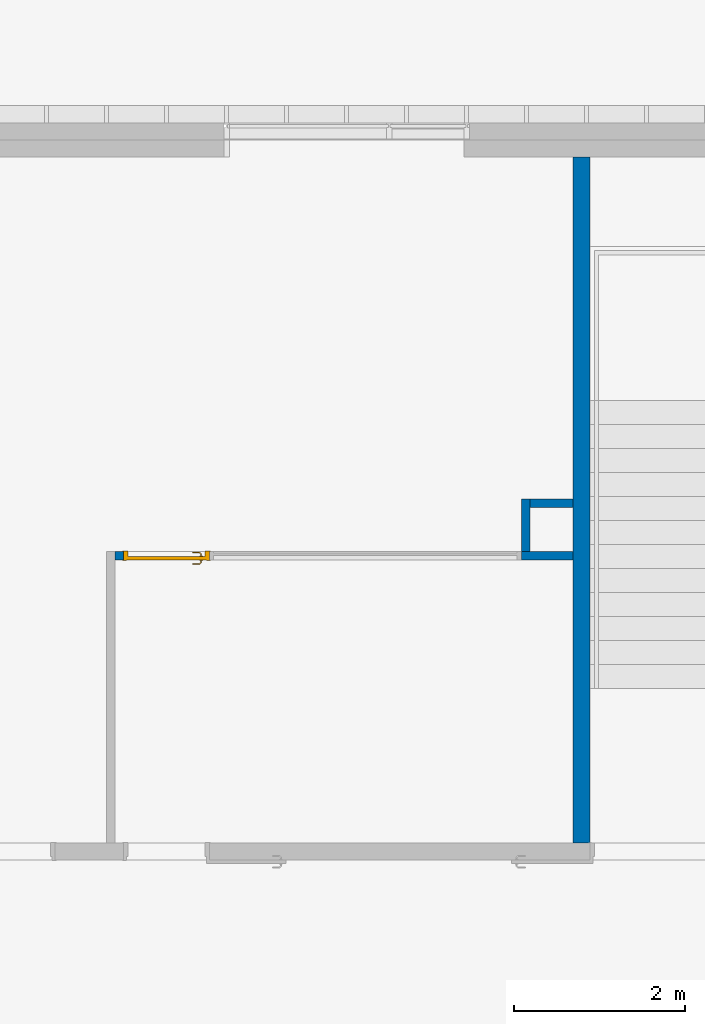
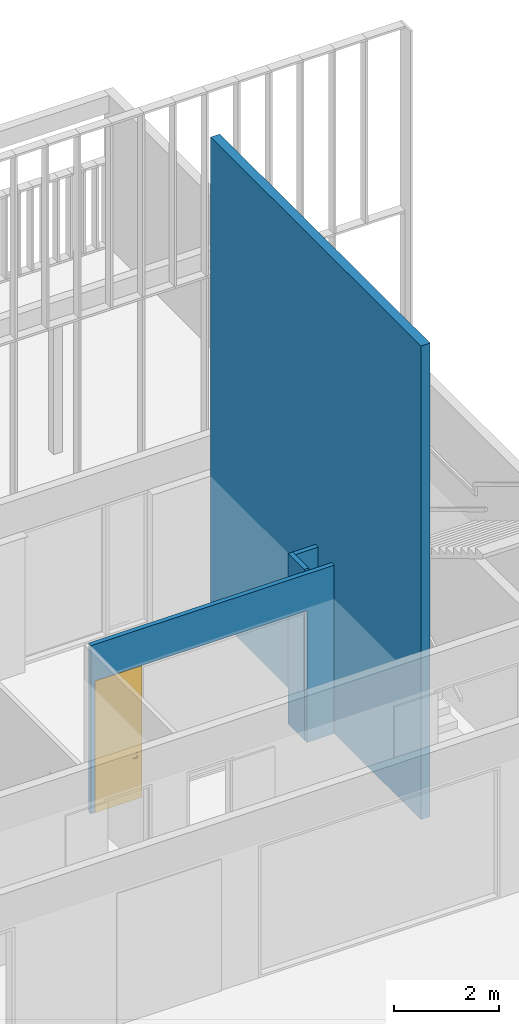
# One storey, part 172 of 240: 4 walls, 1 door, 2 openings.
"""IFC2X3 building model written with IfcOpenShell, lengths in centimetres."""

from ifc_helpers import new_model, entity, si_unit, converted_unit, derived_unit, direction, frame, frame_2d, origin, place, context, subcontext, project, spatial, rectangle, extrude, faceted_brep, source, transform, mapped, material, material_list, layer, layer_set, layer_usage, type_object, type_shapes, element, fill, save


model = new_model("IFC2X3")

# Units and contexts
model_context = context("Model", 3, precision=0.001, world=origin(), true_north=direction((6.12303176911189e-17, 1.0)))
body_context = subcontext(model_context, "Body", "Model", "MODEL_VIEW")
ifc_project = project(units=[si_unit("LENGTHUNIT", "METRE", prefix="CENTI"), si_unit("AREAUNIT", "SQUARE_METRE"), si_unit("VOLUMEUNIT", "CUBIC_METRE"), converted_unit("PLANEANGLEUNIT", "DEGREE", entity("IfcRatioMeasure", 0.0174532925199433), si_unit("PLANEANGLEUNIT", "RADIAN"), dimensions=[0, 0, 0, 0, 0, 0, 0]), si_unit("MASSUNIT", "GRAM", prefix="KILO"), derived_unit("MASSDENSITYUNIT", [(si_unit("MASSUNIT", "GRAM", prefix="KILO"), 1), (si_unit("LENGTHUNIT", "METRE"), -3)]), si_unit("TIMEUNIT", "SECOND"), si_unit("FREQUENCYUNIT", "HERTZ"), si_unit("THERMODYNAMICTEMPERATUREUNIT", "DEGREE_CELSIUS"), derived_unit("THERMALTRANSMITTANCEUNIT", [(si_unit("MASSUNIT", "GRAM", prefix="KILO"), 1), (si_unit("THERMODYNAMICTEMPERATUREUNIT", "KELVIN"), -1), (si_unit("TIMEUNIT", "SECOND"), -3)]), derived_unit("VOLUMETRICFLOWRATEUNIT", [(si_unit("LENGTHUNIT", "METRE"), 3), (si_unit("TIMEUNIT", "SECOND"), -1)]), si_unit("ELECTRICCURRENTUNIT", "AMPERE"), si_unit("ELECTRICVOLTAGEUNIT", "VOLT"), si_unit("POWERUNIT", "WATT"), si_unit("FORCEUNIT", "NEWTON", prefix="KILO"), si_unit("ILLUMINANCEUNIT", "LUX"), si_unit("LUMINOUSFLUXUNIT", "LUMEN"), si_unit("LUMINOUSINTENSITYUNIT", "CANDELA"), derived_unit("USERDEFINED", [(si_unit("MASSUNIT", "GRAM", prefix="KILO"), -1), (si_unit("LENGTHUNIT", "METRE"), -2), (si_unit("TIMEUNIT", "SECOND"), 3), (si_unit("LUMINOUSFLUXUNIT", "LUMEN"), 1)]), derived_unit("LINEARVELOCITYUNIT", [(si_unit("LENGTHUNIT", "METRE"), 1), (si_unit("TIMEUNIT", "SECOND"), -1)]), si_unit("PRESSUREUNIT", "PASCAL"), derived_unit("USERDEFINED", [(si_unit("LENGTHUNIT", "METRE"), -2), (si_unit("MASSUNIT", "GRAM", prefix="KILO"), 1), (si_unit("TIMEUNIT", "SECOND"), -2)])], contexts=[model_context])

# Site, building, storey
site_placement = place(None, frame((-2781.94577612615, 7442.24238424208, 0.0)))
site = spatial("IfcSite", under=ifc_project, at=site_placement, Name="Default", CompositionType="ELEMENT")
building_placement = place(site_placement, origin())
building = spatial("IfcBuilding", under=site, at=building_placement, CompositionType="ELEMENT")
storey_placement = place(building_placement, origin())
storey = spatial("IfcBuildingStorey", under=building, at=storey_placement, Name="N00 - COO", CompositionType="ELEMENT", Elevation=0.0)

# Wall
ifc_material_1 = material(Name="01 - Maçonnerie")
ifc_layer_1 = layer(ifc_material_1, 20.0)
ifc_layer_set_1 = layer_set([ifc_layer_1], Name="Mur de base:04 - Structure - béton - 20cm")
ifc_layer_usage_1 = layer_usage(ifc_layer_set_1, "AXIS2", "NEGATIVE", 10.0)
wall_type_1 = type_object("IfcWallType", Name="Mur de base:04 - Structure - béton - 20cm", PredefinedType="STANDARD", material=ifc_layer_set_1)
wall_1_placement = place(building_placement, frame((-835.299882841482, -1110.0, 0.0), z_axis=(0.0, 0.0, 1.0), x_axis=(0.0, -1.0, 0.0)))
element("IfcWallStandardCase", 1, at=wall_1_placement, inside=storey, type_object=wall_type_1, material=ifc_layer_usage_1, Name="Mur de base:04 - Structure - béton - 20cm", ObjectType="Mur de base:04 - Structure - béton - 20cm", context=body_context, shape_type="SweptSolid", body=[
    extrude(rectangle(XDim=800.079033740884, YDim=20.0, at=frame_2d((400.039516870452, 0.0), x_axis=(-1.0, 0.0))), origin(), (0.0, 0.0, 1.0), 1100.0),
])

# Wall, openings, door
ifc_material_2 = material(Name="01 - Enduit/Plâtre")
ifc_layer_2 = layer(ifc_material_2, 1.3)
ifc_material_3 = material(Name="00 - Isolant")
ifc_layer_3 = layer(ifc_material_3, 7.4)
ifc_layer_4 = layer(ifc_material_2, 1.3)
ifc_layer_set_2 = layer_set([ifc_layer_2, ifc_layer_3, ifc_layer_4], Name="Mur de base:06 - cloisons - Ba13 10cm")
ifc_layer_usage_2 = layer_usage(ifc_layer_set_2, "AXIS2", "NEGATIVE", 5.0)
wall_type_2 = type_object("IfcWallType", Name="Mur de base:06 - cloisons - Ba13 10cm", PredefinedType="STANDARD", material=ifc_layer_set_2)
wall_2_placement = place(building_placement, frame((-845.299882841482, -1575.0, 0.0), z_axis=(0.0, 0.0, 1.0), x_axis=(-1.0, 0.0, 0.0)))
wall_2 = element("IfcWallStandardCase", 2, at=wall_2_placement, inside=storey, type_object=wall_type_2, material=ifc_layer_usage_2, Name="Mur de base:06 - cloisons - Ba13 10cm", ObjectType="Mur de base:06 - cloisons - Ba13 10cm", context=body_context, shape_type="SweptSolid", body=[
    extrude(rectangle(XDim=534.199999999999, YDim=9.99999999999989, at=frame_2d((267.1, 0.0), x_axis=(-1.0, 0.0))), origin(), (0.0, 0.0, 1.0), 391.0),
])
opening_1_placement = place(wall_2_placement, frame((424.2, -5.0, 0.0)))
opening_1 = element("IfcOpeningElement", 3, at=opening_1_placement, cuts=wall_2, Name="Int. Simple:PV (0.93m x 3.00m):1", ObjectType="Opening", context=body_context, shape_type="SweptSolid", body=[
    extrude(rectangle(XDim=304.500000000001, YDim=99.9999999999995, at=frame_2d((152.250000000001, 49.9999999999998), x_axis=(1.0, 0.0))), frame((0.0, 0.0, 0.0), z_axis=(0.0, 1.0, 0.0), x_axis=(0.0, 0.0, 1.0)), (0.0, 0.0, 1.0), 10.0),
])
opening_2_placement = place(wall_2_placement, frame((60.0, -5.0, 0.0)))
element("IfcOpeningElement", 4, at=opening_2_placement, cuts=wall_2, Name="châssis intérieur vitré:RDC - Pignon -  châssis intérieur vitré (3.11m):1", ObjectType="Opening", context=body_context, shape_type="SweptSolid", body=[
    extrude(rectangle(XDim=306.0, YDim=364.2, at=frame_2d((153.0, 182.1), x_axis=(1.0, 0.0))), frame((0.0, 0.0, 0.0), z_axis=(0.0, 1.0, 0.0), x_axis=(0.0, 0.0, 1.0)), (0.0, 0.0, 1.0), 10.0),
])
ifc_material_4 = material(Name="Finition Peinture - Blanc satiné")
ifc_material_5 = material(Name="Bois - Panneau de porte")
ifc_material_6 = material(Name="Bois - Cadre de porte")
ifc_material_list_1 = material_list([ifc_material_4, ifc_material_5, ifc_material_6])
ifc_material_list_2 = material_list([ifc_material_4, ifc_material_5, ifc_material_6])
door_style = type_object("IfcDoorStyle", Name="PV (0.93m x 3.00m)", ConstructionType="NOTDEFINED", OperationType="SINGLE_SWING_RIGHT", ParameterTakesPrecedence=False, Sizeable=False, material=ifc_material_list_2)
shared_shape = source(origin(), body_context, "Body", "Brep", [
    faceted_brep([(99.5000000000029, -0.500000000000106, 87.0), (99.5000000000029, -0.500000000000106, 108.0), (98.535276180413, -0.500000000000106, 108.399601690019), (97.5000000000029, -0.500000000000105, 108.535898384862), (96.4647238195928, -0.500000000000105, 108.399601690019), (95.500000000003, -0.500000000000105, 108.0), (95.5000000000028, -0.500000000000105, 87.0), (96.4647238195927, -0.500000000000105, 86.6003983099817), (97.5000000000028, -0.500000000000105, 86.464101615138), (98.5352761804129, -0.500000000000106, 86.6003983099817), (99.5000000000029, 0.0, 108.0), (99.5000000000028, 0.0, 87.0), (98.5352761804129, 0.0, 86.6003983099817), (97.5000000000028, 0.0, 86.464101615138), (96.4647238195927, 0.0, 86.6003983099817), (95.5000000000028, 0.0, 87.0), (95.5000000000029, 0.0, 108.0), (96.4647238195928, 0.0, 108.399601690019), (97.5000000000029, 0.0, 108.535898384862), (98.535276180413, 0.0, 108.399601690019)], [[[0, 1, 2, 3, 4, 5, 6, 7, 8, 9]], [[10, 11, 12, 13, 14, 15, 16, 17, 18, 19]], [[9, 12, 11, 0]], [[8, 13, 12, 9]], [[7, 14, 13, 8]], [[7, 6, 15, 14]], [[15, 6, 5, 16]], [[4, 17, 16, 5]], [[3, 18, 17, 4]], [[2, 19, 18, 3]], [[2, 1, 10, 19]], [[11, 10, 1, 0]]]),
    faceted_brep([(99.5000000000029, 4.0, 87.0), (99.5000000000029, 4.0, 108.0), (98.535276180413, 4.0, 108.399601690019), (97.5000000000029, 4.0, 108.535898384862), (96.4647238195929, 4.0, 108.399601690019), (95.500000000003, 4.0, 108.0), (95.5000000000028, 4.0, 87.0), (96.4647238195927, 4.0, 86.6003983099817), (97.5000000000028, 4.0, 86.464101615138), (98.5352761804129, 4.0, 86.6003983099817), (97.5000000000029, 4.49999999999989, 108.535898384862), (98.535276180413, 4.49999999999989, 108.399601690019), (99.5000000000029, 4.49999999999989, 108.0), (99.5000000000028, 4.49999999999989, 87.0), (98.5352761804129, 4.49999999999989, 86.6003983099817), (97.5000000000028, 4.49999999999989, 86.464101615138), (96.4647238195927, 4.49999999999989, 86.6003983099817), (95.5000000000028, 4.49999999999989, 87.0), (95.500000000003, 4.49999999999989, 108.0), (96.4647238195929, 4.49999999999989, 108.399601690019)], [[[0, 1, 2, 3, 4, 5, 6, 7, 8, 9]], [[10, 11, 12, 13, 14, 15, 16, 17, 18, 19]], [[4, 19, 18, 5]], [[3, 10, 19, 4]], [[2, 11, 10, 3]], [[2, 1, 12, 11]], [[13, 12, 1, 0]], [[9, 14, 13, 0]], [[8, 15, 14, 9]], [[7, 16, 15, 8]], [[7, 6, 17, 16]], [[17, 6, 5, 18]]]),
    faceted_brep([(97.2974701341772, -0.50000000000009, 100.778044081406), (97.7025298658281, -0.500000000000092, 100.778044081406), (98.1000000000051, -0.500000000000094, 100.699999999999), (98.100000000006, -0.500000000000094, 99.2999999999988), (97.7025298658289, -0.500000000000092, 99.221955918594), (97.297470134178, -0.50000000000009, 99.2219559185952), (96.9000000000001, -0.500000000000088, 99.3000000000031), (96.9000000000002, -0.500000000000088, 100.7), (97.7025298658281, -3.10045754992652, 100.778044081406), (98.1000000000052, -3.26509507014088, 100.7), (97.2974701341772, -2.93267631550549, 100.778044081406), (95.9298602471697, -4.30028620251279, 100.778044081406), (96.0976414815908, -4.70534593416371, 100.778044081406), (96.9000000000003, -2.76803879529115, 100.7), (96.9000000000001, -2.76803879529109, 99.3000000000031), (97.297470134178, -2.93267631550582, 99.2219559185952), (97.7025298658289, -3.10045754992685, 99.221955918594), (96.0976414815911, -4.70534593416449, 99.221955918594), (95.9298602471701, -4.30028620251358, 99.2219559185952), (98.100000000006, -3.26509507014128, 99.2999999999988), (96.2622790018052, -5.10281606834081, 100.7), (95.7652227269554, -3.90281606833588, 100.7), (95.7652227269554, -3.90281606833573, 99.3000000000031), (96.2622790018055, -5.10281606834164, 99.2999999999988), (87.4981359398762, -5.10281606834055, 100.7), (87.4981359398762, -4.70534593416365, 100.778044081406), (87.4981359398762, -4.30028620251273, 100.778044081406), (87.4981359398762, -3.90281606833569, 100.699999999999), (87.4981359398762, -3.90281606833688, 99.3000000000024), (87.4981359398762, -4.30028620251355, 99.2219559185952), (87.4981359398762, -4.70534593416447, 99.221955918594), (87.4981359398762, -5.10281606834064, 99.2999999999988), (91.7139980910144, -4.5028160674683, 100.78786867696), (92.2692302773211, -5.1028160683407, 100.7), (91.6316793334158, -3.9028160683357, 100.7), (91.631679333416, -3.9028160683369, 99.3000000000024), (91.7139981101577, -4.50281607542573, 99.2121313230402), (92.2692310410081, -5.10281606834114, 99.2999999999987)], [[[0, 1, 2, 3, 4, 5, 6, 7]], [[2, 1, 8, 9]], [[1, 0, 10, 11, 12, 8]], [[0, 7, 13, 10]], [[14, 13, 7, 6]], [[5, 15, 14, 6]], [[5, 4, 16, 17, 18, 15]], [[3, 19, 16, 4]], [[9, 19, 3, 2]], [[9, 8, 12, 20]], [[10, 13, 21, 11]], [[22, 21, 13, 14]], [[14, 15, 18, 22]], [[16, 19, 23, 17]], [[20, 23, 19, 9]], [[24, 25, 26, 27, 28, 29, 30, 31]], [[32, 25, 33]], [[33, 25, 24]], [[33, 20, 12]], [[11, 34, 32]], [[34, 11, 21]], [[27, 26, 34]], [[32, 26, 25]], [[32, 34, 26]], [[32, 33, 12]], [[11, 32, 12]], [[21, 22, 35, 28, 27, 34]], [[36, 29, 35]], [[30, 36, 37]], [[18, 35, 22]], [[29, 28, 35]], [[30, 37, 31]], [[37, 17, 23]], [[36, 17, 37]], [[36, 18, 17]], [[36, 35, 18]], [[29, 36, 30]], [[23, 20, 33, 24, 31, 37]]]),
    faceted_brep([(97.2974701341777, 4.49999999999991, 99.2219559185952), (97.7025298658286, 4.49999999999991, 99.221955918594), (98.1000000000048, 4.4999999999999, 99.2999999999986), (98.1000000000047, 4.4999999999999, 100.7), (97.7025298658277, 4.49999999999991, 100.778044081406), (97.2974701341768, 4.49999999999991, 100.778044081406), (96.8999999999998, 4.49999999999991, 100.7), (96.900000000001, 4.49999999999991, 99.3000000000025), (96.8999999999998, 6.7485204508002, 100.7), (96.8999999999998, 6.74852045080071, 99.3000000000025), (97.2974701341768, 6.91315797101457, 100.778044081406), (97.7025298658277, 7.0809392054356, 100.778044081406), (96.0838906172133, 8.69957845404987, 100.778044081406), (95.9161093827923, 8.29451872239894, 100.778044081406), (98.1000000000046, 7.24557672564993, 100.7), (98.1000000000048, 7.24557672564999, 99.2999999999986), (97.7025298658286, 7.08093920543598, 99.221955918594), (97.2974701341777, 6.91315797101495, 99.2219559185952), (95.9161093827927, 8.29451872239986, 99.2219559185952), (96.0838906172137, 8.69957845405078, 99.221955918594), (95.751471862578, 7.89704858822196, 100.7), (95.7514718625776, 7.89704858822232, 99.3000000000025), (96.2485281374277, 9.09704858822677, 100.7), (96.2485281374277, 9.09704858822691, 99.2999999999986), (87.4954216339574, 8.29451872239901, 100.778044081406), (87.4954216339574, 8.69957845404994, 100.778044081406), (87.4954216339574, 9.09704858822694, 100.7), (87.4954216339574, 9.09704858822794, 99.2999999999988), (87.4954216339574, 8.6995784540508, 99.221955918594), (87.4954216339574, 8.29451872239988, 99.2219559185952), (87.4954216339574, 7.89704858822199, 99.3000000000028), (87.4954216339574, 7.89704858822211, 100.7), (91.6234467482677, 7.89704858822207, 100.7), (91.6234479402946, 7.89704858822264, 99.3000000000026), (91.7057655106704, 8.49704858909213, 100.78786867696), (92.255479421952, 9.09704858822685, 100.7), (92.2554795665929, 9.09704858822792, 99.2999999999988), (91.7057654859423, 8.49704858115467, 99.2121313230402)], [[[0, 1, 2, 3, 4, 5, 6, 7]], [[8, 9, 7, 6]], [[5, 10, 8, 6]], [[5, 4, 11, 12, 13, 10]], [[3, 14, 11, 4]], [[14, 3, 2, 15]], [[2, 1, 16, 15]], [[1, 0, 17, 18, 19, 16]], [[0, 7, 9, 17]], [[20, 21, 9, 8]], [[8, 10, 13, 20]], [[14, 22, 12, 11]], [[23, 22, 14, 15]], [[15, 16, 19, 23]], [[17, 9, 21, 18]], [[24, 25, 26, 27, 28, 29, 30, 31]], [[21, 20, 32, 31, 30, 33]], [[34, 24, 32]], [[25, 34, 35]], [[13, 32, 20]], [[24, 31, 32]], [[25, 35, 26]], [[35, 12, 22]], [[34, 12, 35]], [[34, 13, 12]], [[34, 32, 13]], [[24, 34, 25]], [[22, 23, 36, 27, 26, 35]], [[37, 28, 36]], [[36, 28, 27]], [[36, 23, 19]], [[18, 33, 37]], [[33, 18, 21]], [[30, 29, 33]], [[37, 29, 28]], [[37, 33, 29]], [[37, 36, 19]], [[18, 37, 19]]]),
    faceted_brep([(103.500000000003, 4.0, 301.0), (103.500000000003, 4.0, 0.0), (10.5000000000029, 4.0, 0.0), (10.5000000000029, 4.0, 301.0), (103.500000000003, 0.0, 301.0), (10.5000000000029, 0.0, 301.0), (10.5000000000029, 0.0, 0.0), (103.500000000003, 0.0, 0.0)], [[[0, 1, 2, 3]], [[4, 5, 6, 7]], [[3, 5, 4, 0]], [[2, 6, 5, 3]], [[1, 7, 6, 2]], [[0, 4, 7, 1]]]),
    faceted_brep([(107.0, 10.0, 0.0), (107.0, 0.0, 0.0), (108.500000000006, 0.0, 0.0), (108.500000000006, -0.500000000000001, 0.0), (103.500000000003, -0.500000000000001, 0.0), (103.500000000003, 4.0, 0.0), (102.0, 4.0, 0.0), (102.0, 10.5000000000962, 0.0), (108.500000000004, 10.5000000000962, 0.0), (108.500000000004, 10.0, 0.0), (108.500000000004, 10.0, 306.0), (5.50000000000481, 10.0, 306.0), (5.50000000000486, 10.0, 0.0), (7.0, 10.0, 0.0), (7.0, 10.0, 304.500000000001), (107.0, 10.0, 304.500000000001), (108.500000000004, 10.5000000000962, 306.0), (102.0, 10.5000000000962, 299.5), (12.0, 10.5000000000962, 299.5), (12.0, 10.5000000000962, 0.0), (5.50000000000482, 10.5000000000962, 0.0), (5.50000000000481, 10.5000000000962, 306.0), (102.0, 4.0, 299.5), (103.500000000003, 4.0, 301.0), (10.5000000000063, 4.0, 301.0), (10.5000000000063, 4.0, 0.0), (12.0, 4.0, 0.0), (12.0, 4.0, 299.5), (103.500000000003, -0.500000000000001, 301.0), (108.500000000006, -0.500000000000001, 306.0), (5.5000000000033, -0.500000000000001, 306.0), (5.50000000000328, -0.500000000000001, 0.0), (10.5000000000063, -0.500000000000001, 0.0), (10.5000000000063, -0.500000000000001, 301.0), (108.500000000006, 0.0, 306.0), (107.0, 0.0, 304.500000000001), (7.0, 0.0, 304.500000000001), (7.0, 0.0, 0.0), (5.5000000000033, 0.0, 0.0), (5.50000000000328, 0.0, 306.0)], [[[0, 1, 2, 3, 4, 5, 6, 7, 8, 9]], [[9, 10, 11, 12, 13, 14, 15, 0]], [[8, 16, 10, 9]], [[7, 17, 18, 19, 20, 21, 16, 8]], [[7, 6, 22, 17]], [[5, 23, 24, 25, 26, 27, 22, 6]], [[5, 4, 28, 23]], [[3, 29, 30, 31, 32, 33, 28, 4]], [[2, 34, 29, 3]], [[1, 35, 36, 37, 38, 39, 34, 2]], [[0, 15, 35, 1]], [[14, 13, 37, 36]], [[13, 12, 20, 19, 26, 25, 32, 31, 38, 37]], [[21, 20, 12, 11]], [[27, 26, 19, 18]], [[33, 32, 25, 24]], [[39, 38, 31, 30]], [[15, 14, 36, 35]], [[16, 21, 11, 10]], [[22, 27, 18, 17]], [[28, 33, 24, 23]], [[34, 39, 30, 29]]]),
])
type_shapes(door_style, [shared_shape])
door_placement = place(opening_1_placement, frame((107.0, 10.0, 0.0), z_axis=(0.0, 0.0, 1.0), x_axis=(-1.0, 0.0, 0.0)))
door = element("IfcDoor", 5, at=door_placement, inside=storey, type_object=door_style, material=ifc_material_list_1, Name="Int. Simple:PV (0.93m x 3.00m)", ObjectType="Int. Simple:PV (0.93m x 3.00m)", OverallHeight=304.500000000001, OverallWidth=99.9999999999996, context=body_context, shape_type="MappedRepresentation", body=[
    mapped(shared_shape, transform((0.0, 0.0, 0.0), scale=1.0)),
])
fill(opening_1, door)

# Walls
ifc_layer_usage_3 = layer_usage(ifc_layer_set_2, "AXIS2", "NEGATIVE", 5.0)
wall_3_placement = place(building_placement, frame((-900.299882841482, -1570.0, 0.0), z_axis=(0.0, 0.0, 1.0), x_axis=(0.0, 1.0, 0.0)))
element("IfcWallStandardCase", 6, at=wall_3_placement, inside=storey, type_object=wall_type_2, material=ifc_layer_usage_3, Name="Mur de base:06 - cloisons - Ba13 10cm", ObjectType="Mur de base:06 - cloisons - Ba13 10cm", context=body_context, shape_type="SweptSolid", body=[
    extrude(rectangle(XDim=61.0000000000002, YDim=10.0000000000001, at=frame_2d((30.5000000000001, 9.32587340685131e-15), x_axis=(-1.0, 0.0))), origin(), (0.0, 0.0, 1.0), 396.0),
])
ifc_layer_usage_4 = layer_usage(ifc_layer_set_2, "AXIS2", "NEGATIVE", 5.0)
wall_4_placement = place(building_placement, frame((-895.299882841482, -1514.0, 0.0)))
element("IfcWallStandardCase", 7, at=wall_4_placement, inside=storey, type_object=wall_type_2, material=ifc_layer_usage_4, Name="Mur de base:06 - cloisons - Ba13 10cm", ObjectType="Mur de base:06 - cloisons - Ba13 10cm", context=body_context, shape_type="SweptSolid", body=[
    extrude(rectangle(XDim=50.0, YDim=9.99999999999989, at=frame_2d((25.0, -2.08721928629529e-14), x_axis=(-1.0, 0.0))), origin(), (0.0, 0.0, 1.0), 396.0),
])

save(model, "model.ifc")
